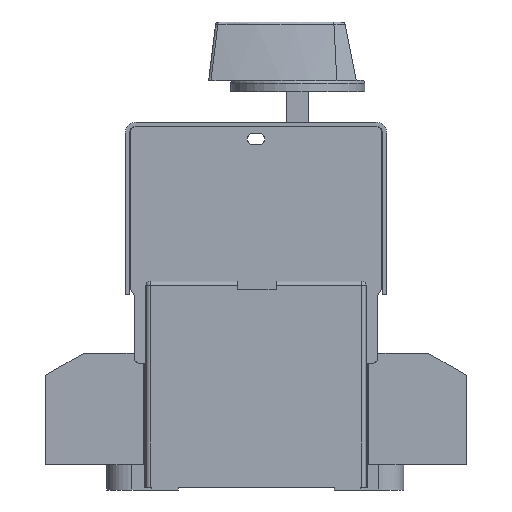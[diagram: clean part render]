
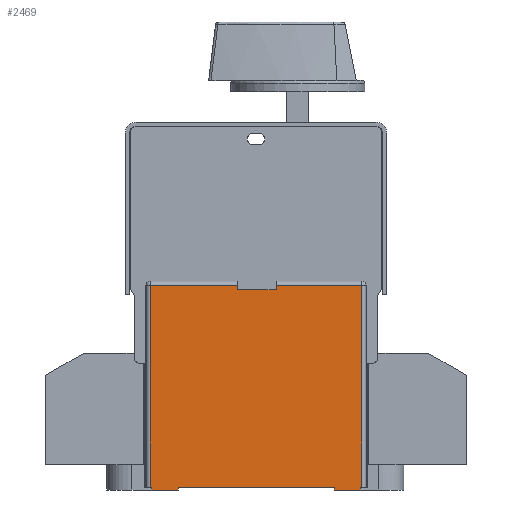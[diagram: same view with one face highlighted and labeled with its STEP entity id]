
A CAD part, left-side view. The second image highlights one B-rep face of the part: STEP entity #2469.
In plain terms, the highlighted planar face has unit normal (-1, 0, 0).
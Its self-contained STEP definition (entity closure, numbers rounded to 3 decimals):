
#1384=FACE_OUTER_BOUND('',#4654,.T.);
#2469=ADVANCED_FACE('',(#1384),#3618,.F.);
#3618=PLANE('',#23216);
#4654=EDGE_LOOP('',(#6567,#6568,#6569,#6570,#6571,#6572,#6573,#6574,#6575,
#6576,#6577,#6578,#6579,#6580,#6581,#6582));
#6567=ORIENTED_EDGE('',*,*,#15177,.F.);
#6568=ORIENTED_EDGE('',*,*,#15178,.T.);
#6569=ORIENTED_EDGE('',*,*,#15179,.T.);
#6570=ORIENTED_EDGE('',*,*,#14950,.F.);
#6571=ORIENTED_EDGE('',*,*,#15180,.T.);
#6572=ORIENTED_EDGE('',*,*,#15181,.T.);
#6573=ORIENTED_EDGE('',*,*,#15175,.T.);
#6574=ORIENTED_EDGE('',*,*,#15061,.T.);
#6575=ORIENTED_EDGE('',*,*,#14813,.F.);
#6576=ORIENTED_EDGE('',*,*,#15182,.F.);
#6577=ORIENTED_EDGE('',*,*,#15183,.T.);
#6578=ORIENTED_EDGE('',*,*,#14961,.T.);
#6579=ORIENTED_EDGE('',*,*,#15184,.F.);
#6580=ORIENTED_EDGE('',*,*,#15185,.F.);
#6581=ORIENTED_EDGE('',*,*,#14829,.T.);
#6582=ORIENTED_EDGE('',*,*,#15073,.T.);
#12646=VERTEX_POINT('',#31262);
#12647=VERTEX_POINT('',#31264);
#12660=VERTEX_POINT('',#31295);
#12661=VERTEX_POINT('',#31297);
#12760=VERTEX_POINT('',#31545);
#12762=VERTEX_POINT('',#31549);
#12773=VERTEX_POINT('',#31573);
#12774=VERTEX_POINT('',#31575);
#12857=VERTEX_POINT('',#31774);
#12865=VERTEX_POINT('',#31796);
#12928=VERTEX_POINT('',#31994);
#12929=VERTEX_POINT('',#31998);
#12930=VERTEX_POINT('',#32000);
#12931=VERTEX_POINT('',#32003);
#12932=VERTEX_POINT('',#32006);
#12933=VERTEX_POINT('',#32009);
#14813=EDGE_CURVE('',#12646,#12647,#18109,.T.);
#14829=EDGE_CURVE('',#12661,#12660,#18124,.T.);
#14950=EDGE_CURVE('',#12762,#12760,#18232,.T.);
#14961=EDGE_CURVE('',#12774,#12773,#18243,.T.);
#15061=EDGE_CURVE('',#12857,#12647,#18322,.T.);
#15073=EDGE_CURVE('',#12660,#12865,#18330,.T.);
#15175=EDGE_CURVE('',#12928,#12857,#18418,.T.);
#15177=EDGE_CURVE('',#12929,#12865,#18419,.T.);
#15178=EDGE_CURVE('',#12929,#12930,#18420,.T.);
#15179=EDGE_CURVE('',#12930,#12760,#18421,.T.);
#15180=EDGE_CURVE('',#12762,#12931,#18422,.T.);
#15181=EDGE_CURVE('',#12931,#12928,#18423,.T.);
#15182=EDGE_CURVE('',#12932,#12646,#18424,.T.);
#15183=EDGE_CURVE('',#12932,#12774,#18425,.T.);
#15184=EDGE_CURVE('',#12933,#12773,#18426,.T.);
#15185=EDGE_CURVE('',#12661,#12933,#18427,.T.);
#18109=LINE('',#31263,#20612);
#18124=LINE('',#31296,#20627);
#18232=LINE('',#31550,#20735);
#18243=LINE('',#31574,#20746);
#18322=LINE('',#31773,#20825);
#18330=LINE('',#31797,#20833);
#18418=LINE('',#31993,#20921);
#18419=LINE('',#31997,#20922);
#18420=LINE('',#31999,#20923);
#18421=LINE('',#32001,#20924);
#18422=LINE('',#32002,#20925);
#18423=LINE('',#32004,#20926);
#18424=LINE('',#32005,#20927);
#18425=LINE('',#32007,#20928);
#18426=LINE('',#32008,#20929);
#18427=LINE('',#32010,#20930);
#20612=VECTOR('',#25043,1.);
#20627=VECTOR('',#25066,1.);
#20735=VECTOR('',#25246,1.);
#20746=VECTOR('',#25261,1.);
#20825=VECTOR('',#25414,1.);
#20833=VECTOR('',#25436,1.);
#20921=VECTOR('',#25616,1.);
#20922=VECTOR('',#25621,1.);
#20923=VECTOR('',#25622,1.);
#20924=VECTOR('',#25623,1.);
#20925=VECTOR('',#25624,1.);
#20926=VECTOR('',#25625,1.);
#20927=VECTOR('',#25626,1.);
#20928=VECTOR('',#25627,1.);
#20929=VECTOR('',#25628,1.);
#20930=VECTOR('',#25629,1.);
#23216=AXIS2_PLACEMENT_3D('',#32011,#25630,#25631);
#25043=DIRECTION('',(0.,0.,1.));
#25066=DIRECTION('',(0.,0.,1.));
#25246=DIRECTION('',(0.,-1.,0.));
#25261=DIRECTION('',(0.,-1.,0.));
#25414=DIRECTION('',(0.,-1.,0.));
#25436=DIRECTION('',(0.,-1.,0.));
#25616=DIRECTION('',(0.,0.,-1.));
#25621=DIRECTION('',(0.,0.,-1.));
#25622=DIRECTION('',(0.,1.,0.));
#25623=DIRECTION('',(0.,0.,-1.));
#25624=DIRECTION('',(0.,0.,1.));
#25625=DIRECTION('',(0.,1.,0.));
#25626=DIRECTION('',(0.,1.,0.));
#25627=DIRECTION('',(0.,0.,1.));
#25628=DIRECTION('',(0.,0.,1.));
#25629=DIRECTION('',(0.,1.,0.));
#25630=DIRECTION('',(1.,0.,0.));
#25631=DIRECTION('',(0.,0.,-1.));
#31262=CARTESIAN_POINT('',(-69.,12.765,-4.9));
#31263=CARTESIAN_POINT('',(-69.,12.765,-5.9));
#31264=CARTESIAN_POINT('',(-69.,12.765,-3.9));
#31295=CARTESIAN_POINT('',(-69.,-62.235,-3.9));
#31296=CARTESIAN_POINT('',(-69.,-62.235,-5.9));
#31297=CARTESIAN_POINT('',(-69.,-62.235,-4.9));
#31545=CARTESIAN_POINT('',(-69.,-31.985,67.));
#31549=CARTESIAN_POINT('',(-69.,-17.985,67.));
#31550=CARTESIAN_POINT('',(-69.,12.765,67.));
#31573=CARTESIAN_POINT('',(-69.,-52.735,-3.9));
#31574=CARTESIAN_POINT('',(-69.,-62.235,-3.9));
#31575=CARTESIAN_POINT('',(-69.,3.265,-3.9));
#31773=CARTESIAN_POINT('',(-69.,-62.235,-3.9));
#31774=CARTESIAN_POINT('',(-69.,13.265,-3.9));
#31796=CARTESIAN_POINT('',(-69.,-62.735,-3.9));
#31797=CARTESIAN_POINT('',(-69.,-62.235,-3.9));
#31993=CARTESIAN_POINT('',(-69.,13.265,69.1));
#31994=CARTESIAN_POINT('',(-69.,13.265,68.6));
#31997=CARTESIAN_POINT('',(-69.,-62.735,69.1));
#31998=CARTESIAN_POINT('',(-69.,-62.735,68.6));
#31999=CARTESIAN_POINT('',(-69.,13.265,68.6));
#32000=CARTESIAN_POINT('',(-69.,-31.985,68.6));
#32001=CARTESIAN_POINT('',(-69.,-31.985,69.1));
#32002=CARTESIAN_POINT('',(-69.,-17.985,69.1));
#32003=CARTESIAN_POINT('',(-69.,-17.985,68.6));
#32004=CARTESIAN_POINT('',(-69.,13.265,68.6));
#32005=CARTESIAN_POINT('',(-69.,3.265,-4.9));
#32006=CARTESIAN_POINT('',(-69.,3.265,-4.9));
#32007=CARTESIAN_POINT('',(-69.,3.265,-5.9));
#32008=CARTESIAN_POINT('',(-69.,-52.735,-5.9));
#32009=CARTESIAN_POINT('',(-69.,-52.735,-4.9));
#32010=CARTESIAN_POINT('',(-69.,-62.235,-4.9));
#32011=CARTESIAN_POINT('',(-69.,-62.235,69.1));
